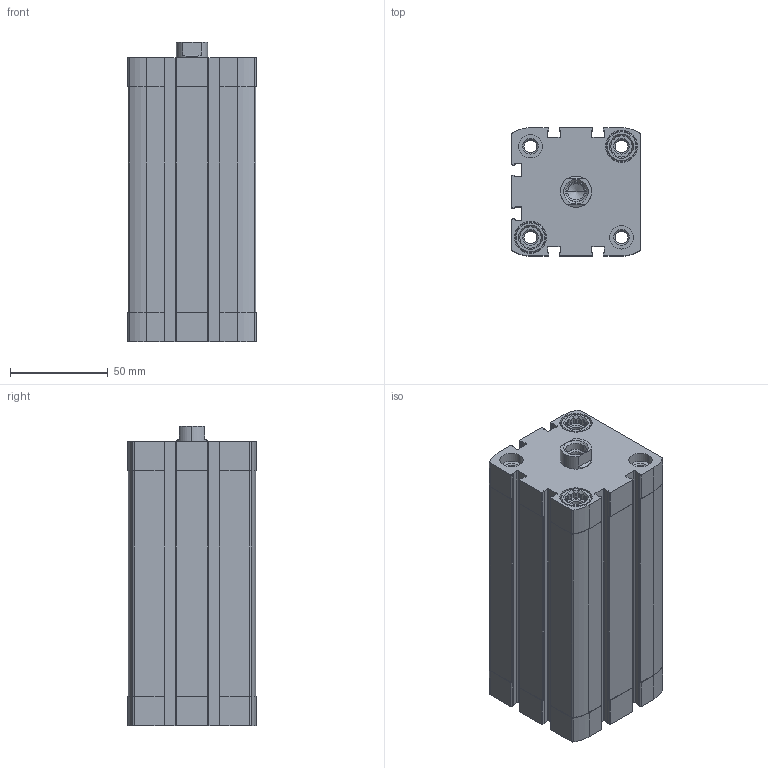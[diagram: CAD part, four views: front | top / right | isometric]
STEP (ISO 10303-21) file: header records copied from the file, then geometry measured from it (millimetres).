
FILE_DESCRIPTION (( 'STEP AP203' ), '1' );
FILE_NAME ('CCN50-100F.STEP', '2017-04-03T15:58:11', ( '' ), ( '' ), 'SwSTEP 2.0', 'SolidWorks 2016', '' );
FILE_SCHEMA (( 'CONFIG_CONTROL_DESIGN' ));
Length unit declared in the file: millimetre
Products named in the file (3): CCN-100---(Z); CCN-100_(KS); CCN50-100F
Assembly tree (2 placements, depth 2):
  CCN50-100F
    CCN-100---(Z)
    CCN-100_(KS)
Bounding box: 65.5 x 65.5 x 152.7 mm (x, y, z)
Volume: 379943.6 mm3; surface area: 106114.1 mm2
Topology: 2 solids, 2 shells, 471 faces, 1270 edges, 833 vertices
Faces by surface type: plane 219, cylinder 210, cone 42
Entity records: 15269 total; most frequent: CARTESIAN_POINT 2871, DIRECTION 2588, ORIENTED_EDGE 2536, EDGE_CURVE 1268, AXIS2_PLACEMENT_3D 942, VERTEX_POINT 833, LINE 704, VECTOR 704
